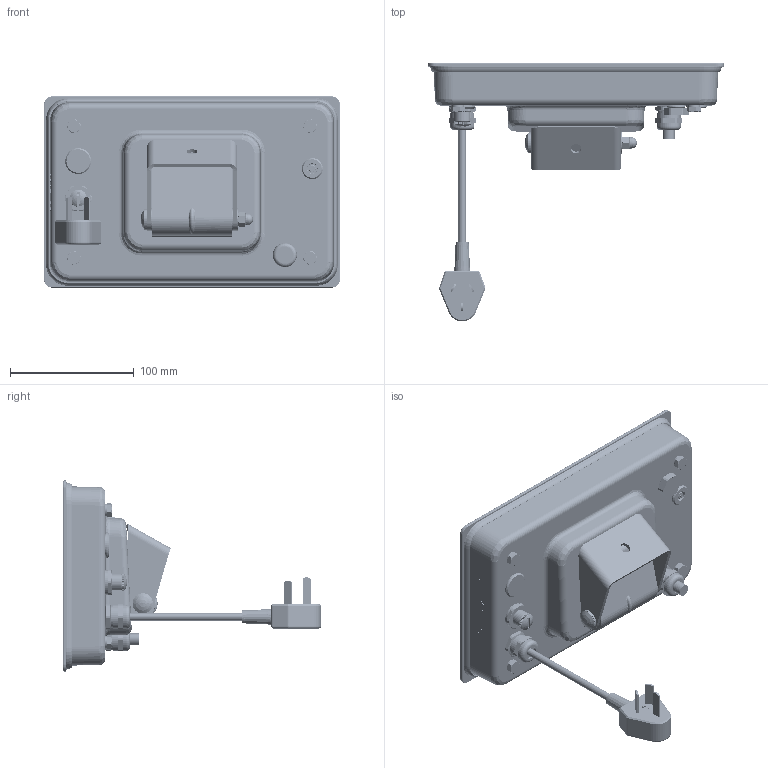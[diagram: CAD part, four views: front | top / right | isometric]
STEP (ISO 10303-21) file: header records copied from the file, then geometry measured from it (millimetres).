
FILE_DESCRIPTION((''),'2;1');
FILE_NAME('D000851510_ASM','2023-11-23T09:44:24',('tong-18'),(''),'CREO PARAMETRIC BY PTC INC, 2022014','CREO PARAMETRIC BY PTC INC, 2022014','');
FILE_SCHEMA(('CONFIG_CONTROL_DESIGN'));
Products named in the file (70): D000761747; D000762117; D000762132; D000762214; D000762140; D000762157; D000774879_ASM; D000762158; D000774874_ASM; D000762916_ASM; 72233225; 72233232; 72229267; 72228893-1; 72228893-3; 72228893-2; INSERT-M4-8; 72228893_ASM; 72242278; 30370828_1; 30370828_2; 30370828_ASM; 72240254; 72233183; 72193754; 72217972; 72201467; 127236; 30766698; D000782747; D000782751_ASM; D000851488; 72242949; 72242279; 72995234; 174218; 143657; 170332; 120154; D000617355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
Assembly tree (150 placements, depth 5):
  D000851510_ASM
    D000851433_ASM
      D000762916_ASM
        D000761747
        D000762117
        D000762132  x2
        D000774879_ASM
          D000762214
          D000762140  x7
          D000762157
        D000774874_ASM
          D000762158
          D000762140  x2
          D000762157  x2
      72233225  x4
      72233232  x4
      72229267
      72228893_ASM
        72228893-1
        72228893-3
        72228893-2  x2
        INSERT-M4-8  x4
      72242278  x4
      30370828_ASM
        30370828_1
        30370828_2
      72240254  x2
      72233183
      72193754  x4
      72217972  x7
      72201467  x8
      127236
      30766698  x3
      D000782751_ASM
        D000782747
      D000851488
      72242949
      72242279
      72995234
      174218
      143657
      170332
      120154
      D000617355
      D000385657
      72242588
      119944
      143938
      72233228
      72242276
      72242277
    D000851491_ASM
      D000775416_ASM
        D000768587
        D000775407  x4
        D000775412  x2
      D000844664  x8
      D000774674_ASM
        D000774666
        D000761201  x8
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Bounding box: 239 x 209 x 154.5 mm (x, y, z)
Volume: 466557.1 mm3; surface area: 549212.7 mm2
Topology: 140 solids, 226 shells, 8080 faces, 22210 edges, 14708 vertices
Faces by surface type: plane 3805, cylinder 2449, extrusion 864, cone 489, torus 258, bspline 138, sphere 63, revolution 14
Entity records: 199460 total; most frequent: CARTESIAN_POINT 55985, ORIENTED_EDGE 30657, DIRECTION 26907, EDGE_CURVE 15672, VERTEX_POINT 10502, VECTOR 9999, LINE 9135, AXIS2_PLACEMENT_3D 8453
